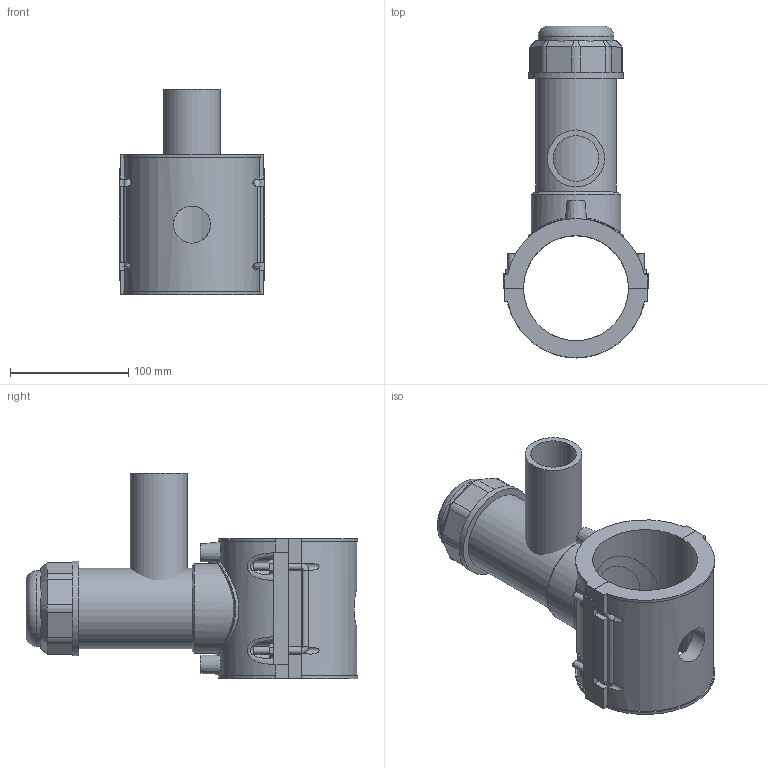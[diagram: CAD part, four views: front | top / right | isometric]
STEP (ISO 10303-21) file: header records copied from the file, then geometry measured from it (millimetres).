
FILE_DESCRIPTION(/* description */ ('PLASSON TAPPING SADDLE 3''''IPS x 1 1/2''''IPS'),/* implementation_level */ '2;1');
FILE_NAME(/* name */ 'C:\Dropbox\KIMPROJECTS-Inventor 2019\99-16-3568-Processing Inch\ASTM ElectroFusion 2021\5963BBP_5963BUP\5963BBP3030015.ipt.stp',/* time_stamp */ '2021-08-30T09:56:57+03:00',/* author */ ('KIM'),/* organization */ (''),/* preprocessor_version */ 'ST-DEVELOPER v17.2',/* originating_system */ 'Autodesk Inventor 2019',/* authorisation */ '');
FILE_SCHEMA (('AUTOMOTIVE_DESIGN { 1 0 10303 214 3 1 1 }'));
Length unit declared in the file: inch
Products named in the file (1): 5963BBP3030015
Bounding box: 122.9 x 280.2 x 173.1 mm (x, y, z)
Volume: 984435.6 mm3; surface area: 210731.5 mm2
Topology: 3 solids, 3 shells, 204 faces, 543 edges, 356 vertices
Faces by surface type: plane 125, cylinder 53, cone 15, bspline 10, torus 1
Full cylindrical faces by diameter (mm): 4 x2, 6 x8, 10 x2, 31.36 x1, 38.48 x1, 48.1 x1, 55.881 x1, 63.864 x1, 67.856 x1, 75.839 x1, 79.83 x1
Entity records: 7875 total; most frequent: CARTESIAN_POINT 2739, ORIENTED_EDGE 1086, DIRECTION 1022, EDGE_CURVE 543, VERTEX_POINT 356, AXIS2_PLACEMENT_3D 351, LINE 320, VECTOR 320
